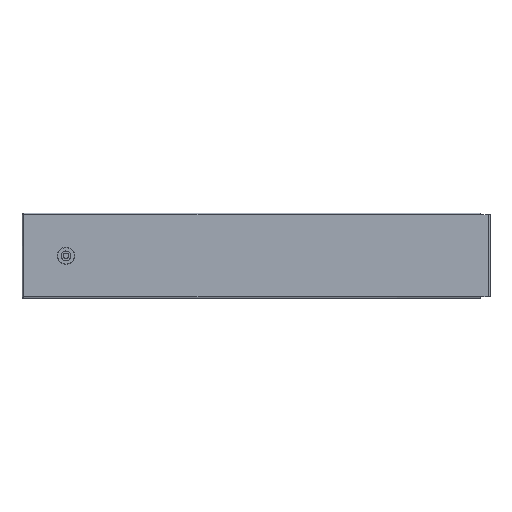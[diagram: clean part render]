
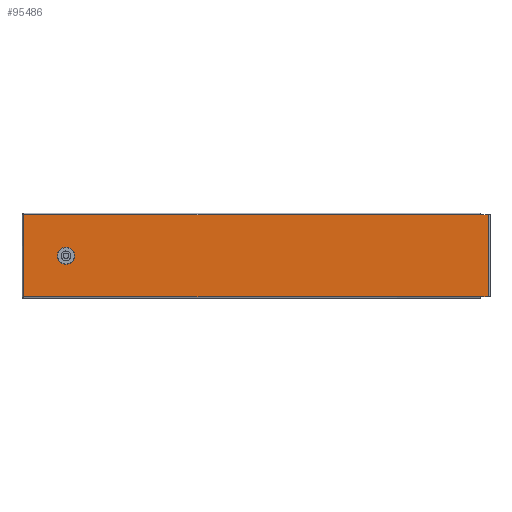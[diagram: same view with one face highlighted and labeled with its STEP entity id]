
A CAD part, top view. The second image highlights one B-rep face of the part: STEP entity #95486.
In plain terms, the highlighted planar face has unit normal (0, 0, 1).
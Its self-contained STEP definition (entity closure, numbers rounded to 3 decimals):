
#93141=CARTESIAN_POINT(' ',(778.,142.2,0.));
#93146=DIRECTION(' ',(-1.,0.,0.));
#93151=VECTOR(' ',#93146,1.);
#93156=LINE('',#93141,#93151);
#93161=CARTESIAN_POINT(' ',(778.,142.2,0.));
#93162=VERTEX_POINT(' ',#93161);
#93166=CARTESIAN_POINT(' ',(2.8,142.2,0.));
#93167=VERTEX_POINT(' ',#93166);
#93171=EDGE_CURVE(' ',#93162,#93167,#93156,.T.);
#95276=DIRECTION(' ',(-0.,-0.,1.));
#95281=CARTESIAN_POINT(' ',(791.2,2.8,0.));
#95286=DIRECTION(' ',(0.,1.,0.));
#95291=AXIS2_PLACEMENT_3D(' ',#95281,#95276,#95286);
#95296=PLANE('NONE',#95291);
#95301=CARTESIAN_POINT(' ',(2.8,2.8,0.));
#95306=DIRECTION(' ',(1.,0.,0.));
#95311=VECTOR(' ',#95306,1.);
#95316=LINE('',#95301,#95311);
#95321=CARTESIAN_POINT(' ',(2.8,2.8,0.));
#95322=VERTEX_POINT(' ',#95321);
#95326=CARTESIAN_POINT(' ',(778.,2.8,0.));
#95327=VERTEX_POINT(' ',#95326);
#95331=EDGE_CURVE(' ',#95322,#95327,#95316,.T.);
#95336=ORIENTED_EDGE(' ',*,*,#95331,.T.);
#95341=CARTESIAN_POINT(' ',(778.,2.8,0.));
#95346=DIRECTION(' ',(1.,0.,0.));
#95351=VECTOR(' ',#95346,1.);
#95356=LINE('',#95341,#95351);
#95361=CARTESIAN_POINT(' ',(791.2,2.8,0.));
#95362=VERTEX_POINT(' ',#95361);
#95366=EDGE_CURVE(' ',#95327,#95362,#95356,.T.);
#95371=ORIENTED_EDGE(' ',*,*,#95366,.T.);
#95376=CARTESIAN_POINT(' ',(791.2,142.2,0.));
#95381=DIRECTION(' ',(0.,-1.,0.));
#95386=VECTOR(' ',#95381,1.);
#95391=LINE('',#95376,#95386);
#95396=CARTESIAN_POINT(' ',(791.2,142.2,0.));
#95397=VERTEX_POINT(' ',#95396);
#95401=EDGE_CURVE(' ',#95397,#95362,#95391,.T.);
#95406=ORIENTED_EDGE(' ',*,*,#95401,.F.);
#95411=CARTESIAN_POINT(' ',(791.2,142.2,0.));
#95416=DIRECTION(' ',(-1.,0.,0.));
#95421=VECTOR(' ',#95416,1.);
#95426=LINE('',#95411,#95421);
#95431=EDGE_CURVE(' ',#95397,#93162,#95426,.T.);
#95436=ORIENTED_EDGE(' ',*,*,#95431,.T.);
#95441=ORIENTED_EDGE(' ',*,*,#93171,.T.);
#95446=CARTESIAN_POINT(' ',(2.8,142.2,0.));
#95451=DIRECTION(' ',(0.,-1.,0.));
#95456=VECTOR(' ',#95451,1.);
#95461=LINE('',#95446,#95456);
#95466=EDGE_CURVE(' ',#93167,#95322,#95461,.T.);
#95471=ORIENTED_EDGE(' ',*,*,#95466,.T.);
#95476=EDGE_LOOP(' ',(#95336,#95371,#95406,#95436,#95441,#95471));
#95481=FACE_OUTER_BOUND(' ',#95476,.T.);
#95486=ADVANCED_FACE('NONE',(#95481),#95296,.T.);
